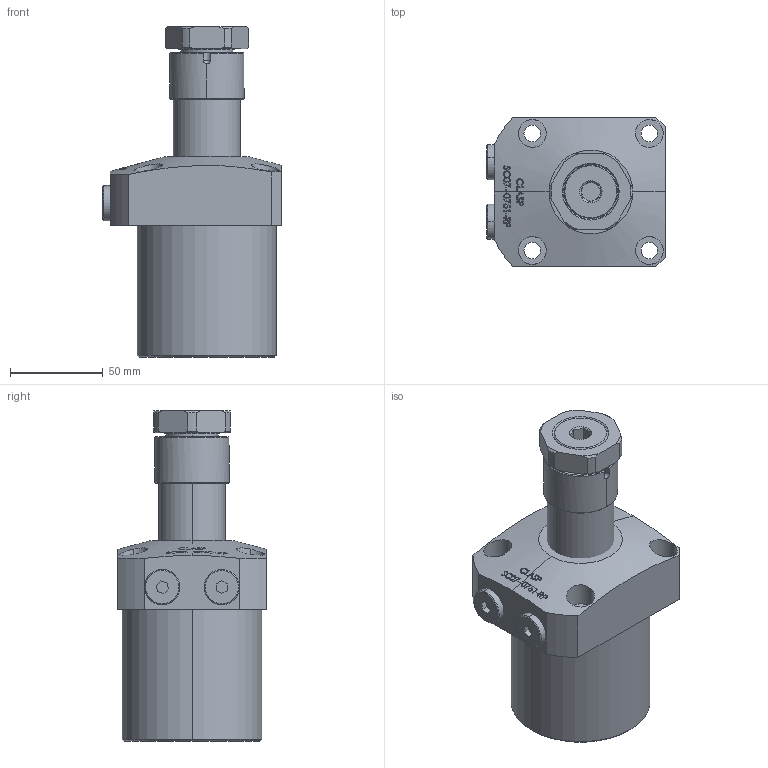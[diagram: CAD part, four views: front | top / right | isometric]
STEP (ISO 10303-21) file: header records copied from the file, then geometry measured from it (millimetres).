
FILE_DESCRIPTION (( 'STEP AP203' ), '1' );
FILE_NAME ('SC07-0751-R.STEP', '2022-07-05T17:53:55', ( '' ), ( '' ), 'SwSTEP 2.0', 'SolidWorks 2017', '' );
FILE_SCHEMA (( 'CONFIG_CONTROL_DESIGN' ));
Length unit declared in the file: millimetre
Products named in the file (6): SC-07-0751-04 sleeve; SC-07-0751-03-nut; SC07-0751-R; SC-07-0751-R BODY; SC-07-0751-R-Piston; SC-07-0751-05 plug
Assembly tree (6 placements, depth 2):
  SC07-0751-R
    SC-07-0751-R BODY
    SC-07-0751-R-Piston
    SC-07-0751-05 plug  x2
    SC-07-0751-04 sleeve
    SC-07-0751-03-nut
Bounding box: 96 x 80 x 178 mm (x, y, z)
Volume: 638269.3 mm3; surface area: 71580.9 mm2
Topology: 6 solids, 6 shells, 379 faces, 953 edges, 625 vertices
Faces by surface type: plane 175, bspline 91, cylinder 62, cone 49, sphere 2
Entity records: 17006 total; most frequent: CARTESIAN_POINT 8348, ORIENTED_EDGE 1838, DIRECTION 1304, EDGE_CURVE 919, VERTEX_POINT 604, AXIS2_PLACEMENT_3D 440, LINE 424, VECTOR 424
